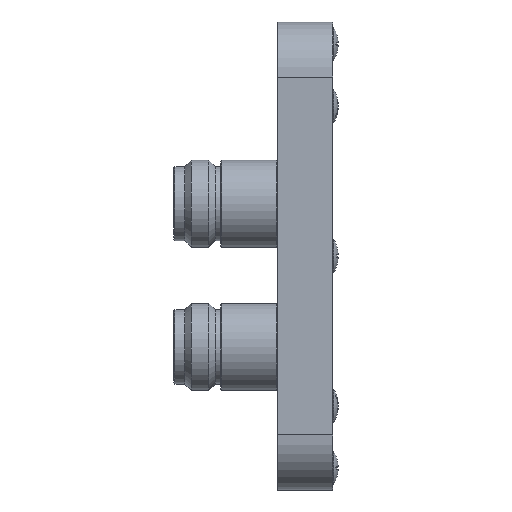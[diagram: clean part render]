
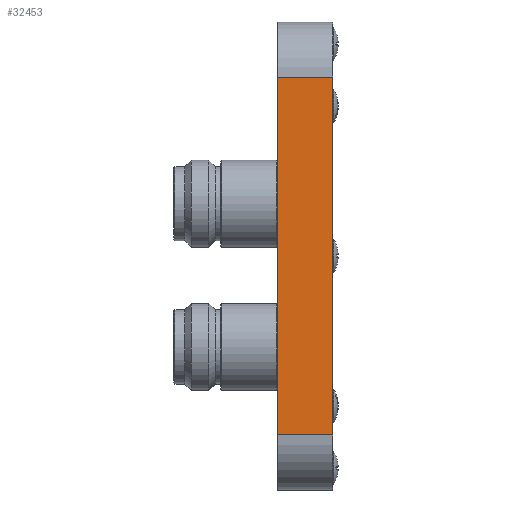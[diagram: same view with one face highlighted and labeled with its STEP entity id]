
A CAD part, left-side view. The second image highlights one B-rep face of the part: STEP entity #32453.
In plain terms, the highlighted planar face has unit normal (-1, 0, 0).
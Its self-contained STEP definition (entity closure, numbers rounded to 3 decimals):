
#1325 = LINE ( 'NONE', #39618, #41541 ) ;
#6121 = CARTESIAN_POINT ( 'NONE',  ( 0., 0., -42.5 ) ) ;
#6173 = VECTOR ( 'NONE', #12547, 1000. ) ;
#6200 = DIRECTION ( 'NONE',  ( 0., 0., 1. ) ) ;
#6815 = PLANE ( 'NONE',  #43240 ) ;
#7086 = DIRECTION ( 'NONE',  ( 0., 1., 0. ) ) ;
#9461 = DIRECTION ( 'NONE',  ( 0., 0., 1. ) ) ;
#10542 = ORIENTED_EDGE ( 'NONE', *, *, #11484, .T. ) ;
#11484 = EDGE_CURVE ( 'NONE', #12754, #41156, #37443, .T. ) ;
#12036 = VERTEX_POINT ( 'NONE', #38982 ) ;
#12547 = DIRECTION ( 'NONE',  ( 0., -1., 0. ) ) ;
#12754 = VERTEX_POINT ( 'NONE', #29807 ) ;
#14046 = CARTESIAN_POINT ( 'NONE',  ( 0., 10., -32.5 ) ) ;
#15056 = LINE ( 'NONE', #15904, #6173 ) ;
#15588 = FACE_OUTER_BOUND ( 'NONE', #24382, .T. ) ;
#15904 = CARTESIAN_POINT ( 'NONE',  ( 0., 10., -32.5 ) ) ;
#16006 = CARTESIAN_POINT ( 'NONE',  ( 0., 0., 32.5 ) ) ;
#16857 = DIRECTION ( 'NONE',  ( 0., 0., -1. ) ) ;
#17917 = VERTEX_POINT ( 'NONE', #14046 ) ;
#22820 = EDGE_CURVE ( 'NONE', #41156, #12036, #25810, .T. ) ;
#23953 = CARTESIAN_POINT ( 'NONE',  ( 0., 10., 32.5 ) ) ;
#24382 = EDGE_LOOP ( 'NONE', ( #34551, #30772, #10542, #41007 ) ) ;
#25810 = LINE ( 'NONE', #23953, #33683 ) ;
#29807 = CARTESIAN_POINT ( 'NONE',  ( 0., 0., -32.5 ) ) ;
#30154 = CARTESIAN_POINT ( 'NONE',  ( 0., 10., -42.5 ) ) ;
#30772 = ORIENTED_EDGE ( 'NONE', *, *, #38663, .T. ) ;
#32453 = ADVANCED_FACE ( 'NONE', ( #15588 ), #6815, .F. ) ;
#33683 = VECTOR ( 'NONE', #7086, 1000. ) ;
#34551 = ORIENTED_EDGE ( 'NONE', *, *, #41898, .F. ) ;
#36371 = VECTOR ( 'NONE', #9461, 1000. ) ;
#36877 = DIRECTION ( 'NONE',  ( 1., 0., 0. ) ) ;
#37443 = LINE ( 'NONE', #6121, #36371 ) ;
#38663 = EDGE_CURVE ( 'NONE', #17917, #12754, #15056, .T. ) ;
#38982 = CARTESIAN_POINT ( 'NONE',  ( 0., 10., 32.5 ) ) ;
#39618 = CARTESIAN_POINT ( 'NONE',  ( 0., 10., -42.5 ) ) ;
#41007 = ORIENTED_EDGE ( 'NONE', *, *, #22820, .T. ) ;
#41156 = VERTEX_POINT ( 'NONE', #16006 ) ;
#41541 = VECTOR ( 'NONE', #6200, 1000. ) ;
#41898 = EDGE_CURVE ( 'NONE', #17917, #12036, #1325, .T. ) ;
#43240 = AXIS2_PLACEMENT_3D ( 'NONE', #30154, #36877, #16857 ) ;
